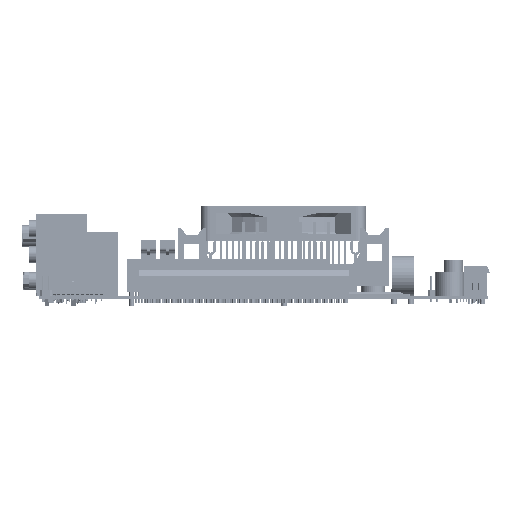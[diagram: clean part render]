
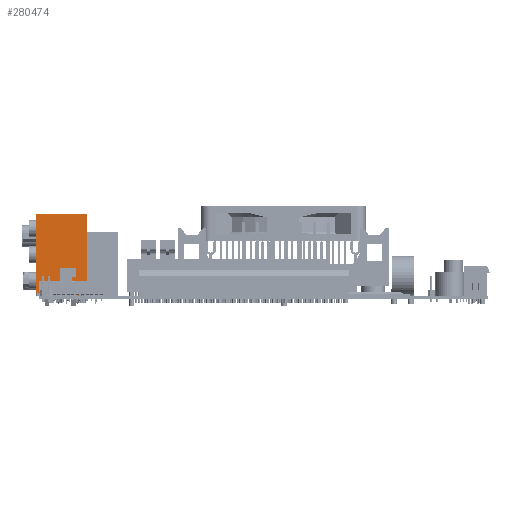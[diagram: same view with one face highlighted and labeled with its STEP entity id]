
A CAD part, front view. The second image highlights one B-rep face of the part: STEP entity #280474.
In plain terms, the highlighted planar face has unit normal (0, -1, 0) as drawn and (1, 0, 0) by its records, which use the part's own axes.
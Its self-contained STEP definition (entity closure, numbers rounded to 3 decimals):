
#277353=DIRECTION('',(0.,1.,0.));
#277354=VECTOR('',#277353,33.7);
#277355=CARTESIAN_POINT('',(12.2,1.,0.));
#277356=LINE('',#277355,#277354);
#278117=DIRECTION('',(0.,0.,1.));
#278118=VECTOR('',#278117,2.);
#278119=CARTESIAN_POINT('',(12.2,1.,-16.9));
#278120=LINE('',#278119,#278118);
#278121=DIRECTION('',(0.,0.,-1.));
#278122=VECTOR('',#278121,7.3);
#278123=CARTESIAN_POINT('',(12.2,1.,-7.6));
#278124=LINE('',#278123,#278122);
#278125=DIRECTION('',(0.,-1.,0.));
#278126=VECTOR('',#278125,1.);
#278127=CARTESIAN_POINT('',(12.2,1.,-7.6));
#278128=LINE('',#278127,#278126);
#278129=DIRECTION('',(0.,1.,0.));
#278130=VECTOR('',#278129,1.);
#278131=CARTESIAN_POINT('',(12.2,0.,-5.6));
#278132=LINE('',#278131,#278130);
#278133=DIRECTION('',(0.,0.,1.));
#278134=VECTOR('',#278133,2.);
#278135=CARTESIAN_POINT('',(12.2,1.,-5.6));
#278136=LINE('',#278135,#278134);
#278137=DIRECTION('',(0.,0.,-1.));
#278138=VECTOR('',#278137,3.6);
#278139=CARTESIAN_POINT('',(12.2,1.,0.));
#278140=LINE('',#278139,#278138);
#278141=DIRECTION('',(0.,0.,-1.));
#278142=VECTOR('',#278141,1.);
#278143=CARTESIAN_POINT('',(12.2,1.,-20.6));
#278144=LINE('',#278143,#278142);
#278145=DIRECTION('',(0.,-1.,0.));
#278146=VECTOR('',#278145,1.);
#278147=CARTESIAN_POINT('',(12.2,1.,-20.6));
#278148=LINE('',#278147,#278146);
#278149=DIRECTION('',(0.,0.,-1.));
#278150=VECTOR('',#278149,0.7);
#278151=CARTESIAN_POINT('',(12.2,1.,-16.9));
#278152=LINE('',#278151,#278150);
#278233=DIRECTION('',(0.,0.,1.));
#278234=VECTOR('',#278233,3.);
#278235=CARTESIAN_POINT('',(12.2,0.,-20.6));
#278236=LINE('',#278235,#278234);
#278289=DIRECTION('',(0.,0.,1.));
#278290=VECTOR('',#278289,2.);
#278291=CARTESIAN_POINT('',(12.2,0.,-7.6));
#278292=LINE('',#278291,#278290);
#278309=DIRECTION('',(0.,-1.,0.));
#278310=VECTOR('',#278309,1.);
#278311=CARTESIAN_POINT('',(12.2,1.,-17.6));
#278312=LINE('',#278311,#278310);
#278409=DIRECTION('',(0.,0.,-1.));
#278410=VECTOR('',#278409,21.6);
#278411=CARTESIAN_POINT('',(12.2,34.7,0.));
#278412=LINE('',#278411,#278410);
#278421=DIRECTION('',(0.,1.,0.));
#278422=VECTOR('',#278421,33.7);
#278423=CARTESIAN_POINT('',(12.2,1.,-21.6));
#278424=LINE('',#278423,#278422);
#279117=CARTESIAN_POINT('',(12.2,1.,0.));
#279118=VERTEX_POINT('',#279117);
#279119=CARTESIAN_POINT('',(12.2,34.7,0.));
#279120=VERTEX_POINT('',#279119);
#279125=CARTESIAN_POINT('',(12.2,1.,-21.6));
#279126=VERTEX_POINT('',#279125);
#279127=CARTESIAN_POINT('',(12.2,34.7,-21.6));
#279128=VERTEX_POINT('',#279127);
#279229=CARTESIAN_POINT('',(12.2,0.,-7.6));
#279230=VERTEX_POINT('',#279229);
#279231=CARTESIAN_POINT('',(12.2,0.,-17.6));
#279233=VERTEX_POINT('',#279231);
#279237=CARTESIAN_POINT('',(12.2,0.,-20.6));
#279238=VERTEX_POINT('',#279237);
#279257=CARTESIAN_POINT('',(12.2,1.,-7.6));
#279258=VERTEX_POINT('',#279257);
#279259=CARTESIAN_POINT('',(12.2,1.,-17.6));
#279261=VERTEX_POINT('',#279259);
#279265=CARTESIAN_POINT('',(12.2,1.,-20.6));
#279266=VERTEX_POINT('',#279265);
#279358=CARTESIAN_POINT('',(12.2,1.,-3.6));
#279360=VERTEX_POINT('',#279358);
#279365=CARTESIAN_POINT('',(12.2,0.,-5.6));
#279366=CARTESIAN_POINT('',(12.2,1.,-5.6));
#279367=VERTEX_POINT('',#279365);
#279368=VERTEX_POINT('',#279366);
#279413=CARTESIAN_POINT('',(12.2,1.,-16.9));
#279414=VERTEX_POINT('',#279413);
#279419=CARTESIAN_POINT('',(12.2,1.,-14.9));
#279420=VERTEX_POINT('',#279419);
#280443=CARTESIAN_POINT('',(12.2,1.,0.));
#280444=DIRECTION('',(1.,0.,0.));
#280445=DIRECTION('',(0.,1.,0.));
#280446=AXIS2_PLACEMENT_3D('',#280443,#280444,#280445);
#280447=PLANE('',#280446);
#280448=ORIENTED_EDGE('',*,*,#280271,.T.);
#280449=ORIENTED_EDGE('',*,*,#279834,.F.);
#280451=ORIENTED_EDGE('',*,*,#280450,.T.);
#280453=ORIENTED_EDGE('',*,*,#280452,.T.);
#280455=ORIENTED_EDGE('',*,*,#280454,.T.);
#280457=ORIENTED_EDGE('',*,*,#280456,.T.);
#280458=ORIENTED_EDGE('',*,*,#279822,.F.);
#280459=ORIENTED_EDGE('',*,*,#279646,.T.);
#280461=ORIENTED_EDGE('',*,*,#280460,.T.);
#280463=ORIENTED_EDGE('',*,*,#280462,.F.);
#280464=ORIENTED_EDGE('',*,*,#279850,.F.);
#280466=ORIENTED_EDGE('',*,*,#280465,.T.);
#280468=ORIENTED_EDGE('',*,*,#280467,.T.);
#280470=ORIENTED_EDGE('',*,*,#280469,.F.);
#280471=ORIENTED_EDGE('',*,*,#279842,.F.);
#280472=EDGE_LOOP('',(#280448,#280449,#280451,#280453,#280455,#280457,#280458,
#280459,#280461,#280463,#280464,#280466,#280468,#280470,#280471));
#280473=FACE_OUTER_BOUND('',#280472,.F.);
#280474=ADVANCED_FACE('',(#280473),#280447,.T.);
#279646=EDGE_CURVE('',#279118,#279120,#277356,.T.);
#279822=EDGE_CURVE('',#279118,#279360,#278140,.T.);
#279834=EDGE_CURVE('',#279258,#279420,#278124,.T.);
#279842=EDGE_CURVE('',#279414,#279261,#278152,.T.);
#279850=EDGE_CURVE('',#279266,#279126,#278144,.T.);
#280271=EDGE_CURVE('',#279414,#279420,#278120,.T.);
#280450=EDGE_CURVE('',#279258,#279230,#278128,.T.);
#280452=EDGE_CURVE('',#279230,#279367,#278292,.T.);
#280454=EDGE_CURVE('',#279367,#279368,#278132,.T.);
#280456=EDGE_CURVE('',#279368,#279360,#278136,.T.);
#280460=EDGE_CURVE('',#279120,#279128,#278412,.T.);
#280462=EDGE_CURVE('',#279126,#279128,#278424,.T.);
#280465=EDGE_CURVE('',#279266,#279238,#278148,.T.);
#280467=EDGE_CURVE('',#279238,#279233,#278236,.T.);
#280469=EDGE_CURVE('',#279261,#279233,#278312,.T.);
